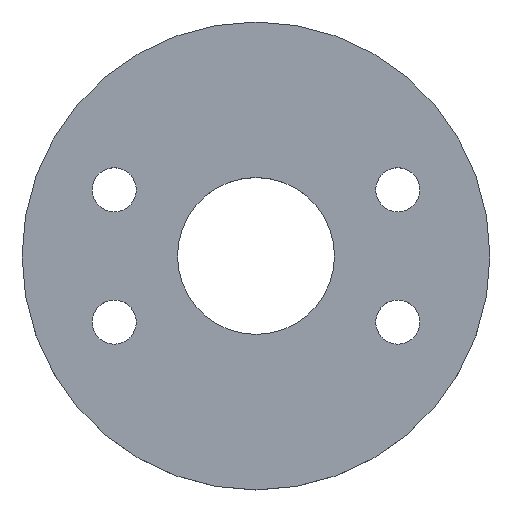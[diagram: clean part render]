
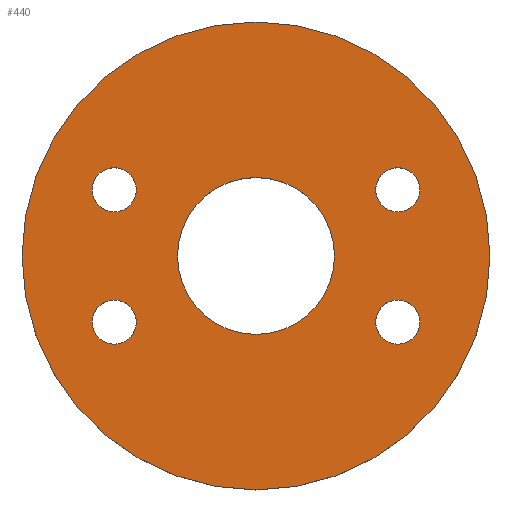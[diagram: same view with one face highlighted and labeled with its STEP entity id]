
A CAD part, top view. The second image highlights one B-rep face of the part: STEP entity #440.
In plain terms, the highlighted planar face has unit normal (0, 0, 1).
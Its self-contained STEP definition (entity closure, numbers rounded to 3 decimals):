
#12 = EDGE_CURVE ( 'NONE', #369, #92, #149, .T. ) ;
#18 = AXIS2_PLACEMENT_3D ( 'NONE', #304, #446, #462 ) ;
#22 = DIRECTION ( 'NONE',  ( 0., 0., 1. ) ) ;
#28 = ORIENTED_EDGE ( 'NONE', *, *, #117, .F. ) ;
#30 = CIRCLE ( 'NONE', #497, 22.5 ) ;
#31 = AXIS2_PLACEMENT_3D ( 'NONE', #265, #272, #133 ) ;
#41 = DIRECTION ( 'NONE',  ( -1., 0., 0. ) ) ;
#48 = EDGE_LOOP ( 'NONE', ( #463, #103 ) ) ;
#49 = CARTESIAN_POINT ( 'NONE',  ( -167.056, -67.408, 17.5 ) ) ;
#50 = DIRECTION ( 'NONE',  ( 0., 0., 1. ) ) ;
#52 = ORIENTED_EDGE ( 'NONE', *, *, #183, .T. ) ;
#55 = DIRECTION ( 'NONE',  ( 0., 0., 1. ) ) ;
#57 = DIRECTION ( 'NONE',  ( 1., 0., 0. ) ) ;
#61 = CARTESIAN_POINT ( 'NONE',  ( -144.556, 67.408, 17.5 ) ) ;
#92 = VERTEX_POINT ( 'NONE', #49 ) ;
#103 = ORIENTED_EDGE ( 'NONE', *, *, #129, .F. ) ;
#108 = AXIS2_PLACEMENT_3D ( 'NONE', #315, #443, #350 ) ;
#113 = EDGE_CURVE ( 'NONE', #343, #504, #190, .T. ) ;
#117 = EDGE_CURVE ( 'NONE', #92, #369, #30, .T. ) ;
#119 = DIRECTION ( 'NONE',  ( 0., 0., 1. ) ) ;
#121 = ORIENTED_EDGE ( 'NONE', *, *, #537, .T. ) ;
#127 = AXIS2_PLACEMENT_3D ( 'NONE', #252, #297, #399 ) ;
#128 = VERTEX_POINT ( 'NONE', #516 ) ;
#129 = EDGE_CURVE ( 'NONE', #219, #473, #338, .T. ) ;
#132 = FACE_BOUND ( 'NONE', #411, .T. ) ;
#133 = DIRECTION ( 'NONE',  ( -1., 0., 0. ) ) ;
#134 = PLANE ( 'NONE',  #302 ) ;
#141 = CARTESIAN_POINT ( 'NONE',  ( 144.556, -67.408, 17.5 ) ) ;
#142 = AXIS2_PLACEMENT_3D ( 'NONE', #416, #50, #57 ) ;
#149 = CIRCLE ( 'NONE', #376, 22.5 ) ;
#153 = VERTEX_POINT ( 'NONE', #333 ) ;
#155 = EDGE_CURVE ( 'NONE', #473, #219, #242, .T. ) ;
#167 = AXIS2_PLACEMENT_3D ( 'NONE', #503, #483, #442 ) ;
#170 = EDGE_LOOP ( 'NONE', ( #536, #404 ) ) ;
#172 = CIRCLE ( 'NONE', #127, 22.5 ) ;
#175 = DIRECTION ( 'NONE',  ( 1., 0., 0. ) ) ;
#177 = CARTESIAN_POINT ( 'NONE',  ( -144.556, -67.408, 17.5 ) ) ;
#179 = ORIENTED_EDGE ( 'NONE', *, *, #12, .F. ) ;
#183 = EDGE_CURVE ( 'NONE', #153, #336, #207, .T. ) ;
#186 = DIRECTION ( 'NONE',  ( 0., 0., 1. ) ) ;
#187 = DIRECTION ( 'NONE',  ( 0., 0., 1. ) ) ;
#190 = CIRCLE ( 'NONE', #31, 22.5 ) ;
#191 = DIRECTION ( 'NONE',  ( 0., 0., 1. ) ) ;
#193 = CARTESIAN_POINT ( 'NONE',  ( 167.056, 67.408, 17.5 ) ) ;
#197 = FACE_BOUND ( 'NONE', #493, .T. ) ;
#202 = VERTEX_POINT ( 'NONE', #253 ) ;
#203 = FACE_BOUND ( 'NONE', #48, .T. ) ;
#204 = DIRECTION ( 'NONE',  ( 0., 0., 1. ) ) ;
#205 = EDGE_LOOP ( 'NONE', ( #52, #121 ) ) ;
#207 = CIRCLE ( 'NONE', #142, 238.5 ) ;
#209 = VERTEX_POINT ( 'NONE', #459 ) ;
#210 = EDGE_CURVE ( 'NONE', #504, #343, #495, .T. ) ;
#211 = CARTESIAN_POINT ( 'NONE',  ( 0., 0., 17.5 ) ) ;
#219 = VERTEX_POINT ( 'NONE', #372 ) ;
#229 = AXIS2_PLACEMENT_3D ( 'NONE', #141, #204, #331 ) ;
#236 = FACE_OUTER_BOUND ( 'NONE', #205, .T. ) ;
#242 = CIRCLE ( 'NONE', #167, 22.5 ) ;
#248 = ORIENTED_EDGE ( 'NONE', *, *, #286, .F. ) ;
#252 = CARTESIAN_POINT ( 'NONE',  ( -144.556, 67.408, 17.5 ) ) ;
#253 = CARTESIAN_POINT ( 'NONE',  ( -80., 0., 17.5 ) ) ;
#265 = CARTESIAN_POINT ( 'NONE',  ( 144.556, -67.408, 17.5 ) ) ;
#272 = DIRECTION ( 'NONE',  ( 0., 0., 1. ) ) ;
#280 = CIRCLE ( 'NONE', #322, 238.5 ) ;
#284 = CARTESIAN_POINT ( 'NONE',  ( 167.056, -67.408, 17.5 ) ) ;
#286 = EDGE_CURVE ( 'NONE', #209, #518, #441, .T. ) ;
#289 = CARTESIAN_POINT ( 'NONE',  ( 0., 0., 17.5 ) ) ;
#296 = ORIENTED_EDGE ( 'NONE', *, *, #210, .F. ) ;
#297 = DIRECTION ( 'NONE',  ( 0., 0., 1. ) ) ;
#299 = EDGE_CURVE ( 'NONE', #128, #202, #398, .T. ) ;
#302 = AXIS2_PLACEMENT_3D ( 'NONE', #355, #119, #515 ) ;
#304 = CARTESIAN_POINT ( 'NONE',  ( 0., 0., 17.5 ) ) ;
#307 = DIRECTION ( 'NONE',  ( 1., 0., 0. ) ) ;
#308 = ORIENTED_EDGE ( 'NONE', *, *, #386, .F. ) ;
#315 = CARTESIAN_POINT ( 'NONE',  ( 144.556, 67.408, 17.5 ) ) ;
#322 = AXIS2_PLACEMENT_3D ( 'NONE', #289, #22, #494 ) ;
#326 = EDGE_CURVE ( 'NONE', #202, #128, #418, .T. ) ;
#331 = DIRECTION ( 'NONE',  ( -1., 0., 0. ) ) ;
#333 = CARTESIAN_POINT ( 'NONE',  ( -238.5, 0., 17.5 ) ) ;
#336 = VERTEX_POINT ( 'NONE', #519 ) ;
#338 = CIRCLE ( 'NONE', #108, 22.5 ) ;
#343 = VERTEX_POINT ( 'NONE', #468 ) ;
#350 = DIRECTION ( 'NONE',  ( 1., 0., 0. ) ) ;
#352 = CARTESIAN_POINT ( 'NONE',  ( -144.556, -67.408, 17.5 ) ) ;
#355 = CARTESIAN_POINT ( 'NONE',  ( 0., 0., 17.5 ) ) ;
#359 = CARTESIAN_POINT ( 'NONE',  ( -167.056, 67.408, 17.5 ) ) ;
#369 = VERTEX_POINT ( 'NONE', #401 ) ;
#372 = CARTESIAN_POINT ( 'NONE',  ( 122.056, 67.408, 17.5 ) ) ;
#376 = AXIS2_PLACEMENT_3D ( 'NONE', #352, #187, #429 ) ;
#380 = FACE_BOUND ( 'NONE', #170, .T. ) ;
#386 = EDGE_CURVE ( 'NONE', #518, #209, #172, .T. ) ;
#398 = CIRCLE ( 'NONE', #513, 80. ) ;
#399 = DIRECTION ( 'NONE',  ( -1., 0., 0. ) ) ;
#401 = CARTESIAN_POINT ( 'NONE',  ( -122.056, -67.408, 17.5 ) ) ;
#404 = ORIENTED_EDGE ( 'NONE', *, *, #299, .F. ) ;
#411 = EDGE_LOOP ( 'NONE', ( #179, #28 ) ) ;
#416 = CARTESIAN_POINT ( 'NONE',  ( 0., 0., 17.5 ) ) ;
#418 = CIRCLE ( 'NONE', #18, 80. ) ;
#426 = FACE_BOUND ( 'NONE', #507, .T. ) ;
#427 = AXIS2_PLACEMENT_3D ( 'NONE', #61, #55, #41 ) ;
#429 = DIRECTION ( 'NONE',  ( 1., 0., 0. ) ) ;
#440 = ADVANCED_FACE ( 'NONE', ( #197, #132, #426, #203, #236, #380 ), #134, .T. ) ;
#441 = CIRCLE ( 'NONE', #427, 22.5 ) ;
#442 = DIRECTION ( 'NONE',  ( 1., 0., 0. ) ) ;
#443 = DIRECTION ( 'NONE',  ( 0., 0., 1. ) ) ;
#446 = DIRECTION ( 'NONE',  ( 0., 0., 1. ) ) ;
#459 = CARTESIAN_POINT ( 'NONE',  ( -122.056, 67.408, 17.5 ) ) ;
#462 = DIRECTION ( 'NONE',  ( 1., 0., 0. ) ) ;
#463 = ORIENTED_EDGE ( 'NONE', *, *, #155, .F. ) ;
#468 = CARTESIAN_POINT ( 'NONE',  ( 122.056, -67.408, 17.5 ) ) ;
#473 = VERTEX_POINT ( 'NONE', #193 ) ;
#483 = DIRECTION ( 'NONE',  ( 0., 0., 1. ) ) ;
#493 = EDGE_LOOP ( 'NONE', ( #248, #308 ) ) ;
#494 = DIRECTION ( 'NONE',  ( 1., 0., 0. ) ) ;
#495 = CIRCLE ( 'NONE', #229, 22.5 ) ;
#497 = AXIS2_PLACEMENT_3D ( 'NONE', #177, #191, #307 ) ;
#503 = CARTESIAN_POINT ( 'NONE',  ( 144.556, 67.408, 17.5 ) ) ;
#504 = VERTEX_POINT ( 'NONE', #284 ) ;
#507 = EDGE_LOOP ( 'NONE', ( #296, #540 ) ) ;
#513 = AXIS2_PLACEMENT_3D ( 'NONE', #211, #186, #175 ) ;
#515 = DIRECTION ( 'NONE',  ( 1., 0., 0. ) ) ;
#516 = CARTESIAN_POINT ( 'NONE',  ( 80., 0., 17.5 ) ) ;
#518 = VERTEX_POINT ( 'NONE', #359 ) ;
#519 = CARTESIAN_POINT ( 'NONE',  ( 238.5, 0., 17.5 ) ) ;
#536 = ORIENTED_EDGE ( 'NONE', *, *, #326, .F. ) ;
#537 = EDGE_CURVE ( 'NONE', #336, #153, #280, .T. ) ;
#540 = ORIENTED_EDGE ( 'NONE', *, *, #113, .F. ) ;
